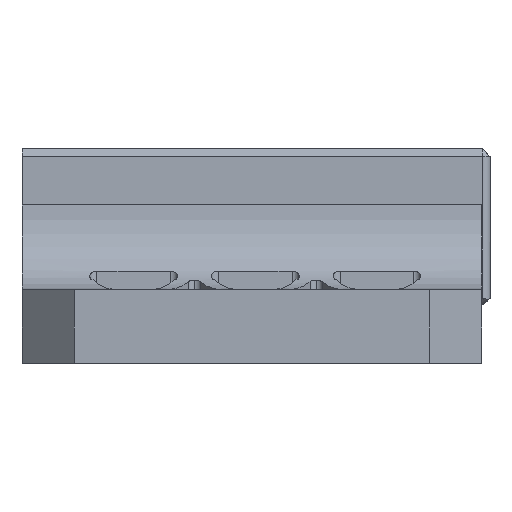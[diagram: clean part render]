
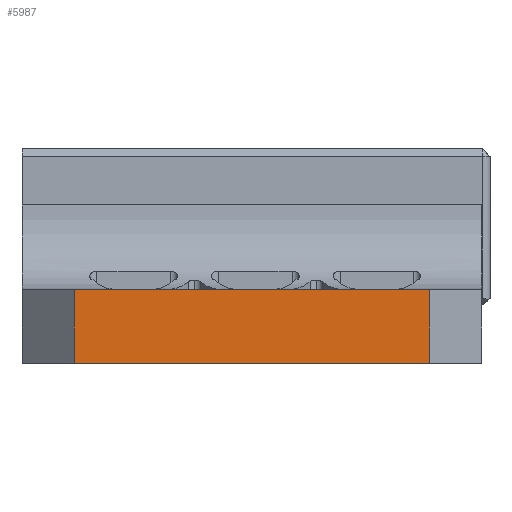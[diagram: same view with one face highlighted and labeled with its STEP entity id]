
A CAD part, front view. The second image highlights one B-rep face of the part: STEP entity #5987.
In plain terms, the highlighted planar face has unit normal (0, -1, 0).
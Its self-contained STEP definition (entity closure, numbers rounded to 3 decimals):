
#585=FACE_OUTER_BOUND('',#908,.T.);
#908=EDGE_LOOP('',(#3977,#3978,#3979,#3980));
#1270=LINE('',#8308,#1849);
#1273=LINE('',#8314,#1852);
#1274=LINE('',#8316,#1853);
#1275=LINE('',#8317,#1854);
#1849=VECTOR('',#6786,10.);
#1852=VECTOR('',#6791,10.);
#1853=VECTOR('',#6792,10.);
#1854=VECTOR('',#6793,10.);
#2428=VERTEX_POINT('',#8305);
#2429=VERTEX_POINT('',#8307);
#2431=VERTEX_POINT('',#8313);
#2432=VERTEX_POINT('',#8315);
#3041=EDGE_CURVE('',#2428,#2429,#1270,.T.);
#3044=EDGE_CURVE('',#2431,#2428,#1273,.T.);
#3045=EDGE_CURVE('',#2432,#2431,#1274,.T.);
#3046=EDGE_CURVE('',#2429,#2432,#1275,.T.);
#3977=ORIENTED_EDGE('',*,*,#3041,.F.);
#3978=ORIENTED_EDGE('',*,*,#3044,.F.);
#3979=ORIENTED_EDGE('',*,*,#3045,.F.);
#3980=ORIENTED_EDGE('',*,*,#3046,.F.);
#5840=PLANE('',#6312);
#5987=ADVANCED_FACE('',(#585),#5840,.F.);
#6312=AXIS2_PLACEMENT_3D('',#8312,#6789,#6790);
#6786=DIRECTION('',(0.,0.,-1.));
#6789=DIRECTION('center_axis',(0.,1.,0.));
#6790=DIRECTION('ref_axis',(1.,0.,0.));
#6791=DIRECTION('',(1.,0.,0.));
#6792=DIRECTION('',(0.,0.,1.));
#6793=DIRECTION('',(-1.,0.,0.));
#8305=CARTESIAN_POINT('',(29.34,-55.586,-6.334));
#8307=CARTESIAN_POINT('',(29.34,-55.586,-12.002));
#8308=CARTESIAN_POINT('',(29.34,-55.586,-6.818));
#8312=CARTESIAN_POINT('Origin',(-5.66,-55.586,-6.134));
#8313=CARTESIAN_POINT('',(2.,-55.586,-6.334));
#8314=CARTESIAN_POINT('',(4.09,-55.586,-6.334));
#8315=CARTESIAN_POINT('',(2.,-55.586,-12.002));
#8316=CARTESIAN_POINT('',(2.,-55.586,-6.134));
#8317=CARTESIAN_POINT('',(4.09,-55.586,-12.002));
